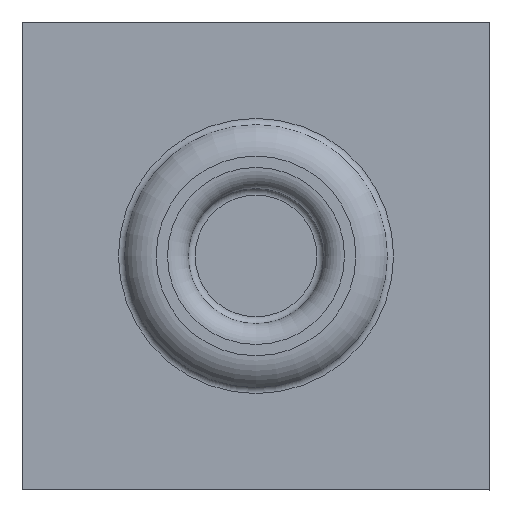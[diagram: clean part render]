
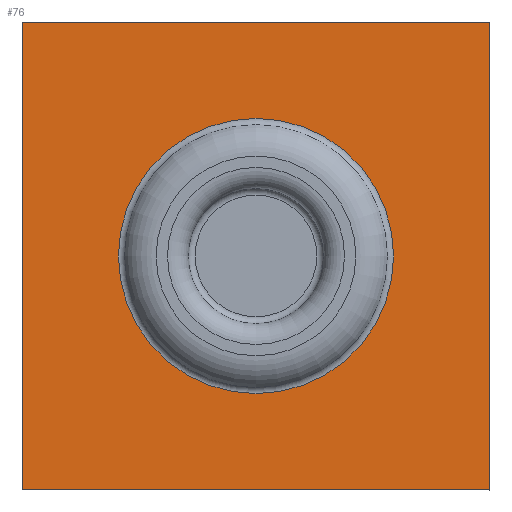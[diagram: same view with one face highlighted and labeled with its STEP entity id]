
A CAD part, top view. The second image highlights one B-rep face of the part: STEP entity #76.
In plain terms, the highlighted planar face has unit normal (0, 0, 1).
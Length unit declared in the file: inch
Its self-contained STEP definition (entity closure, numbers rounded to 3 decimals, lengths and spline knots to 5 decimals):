
#76=ADVANCED_FACE('',(#96,#97),#98,.F.);
#96=FACE_BOUND('',#144,.T.);
#97=FACE_OUTER_BOUND('',#145,.T.);
#98=PLANE('',#146);
#144=EDGE_LOOP('',(#197));
#145=EDGE_LOOP('',(#198,#199,#200,#201));
#146=AXIS2_PLACEMENT_3D('',#202,#203,#204);
#197=ORIENTED_EDGE('',*,*,#296,.F.);
#198=ORIENTED_EDGE('',*,*,#294,.T.);
#199=ORIENTED_EDGE('',*,*,#297,.T.);
#200=ORIENTED_EDGE('',*,*,#298,.T.);
#201=ORIENTED_EDGE('',*,*,#299,.T.);
#202=CARTESIAN_POINT('',(0.332,3.17,-0.06));
#203=DIRECTION('',(0.,0.,-1.0));
#204=DIRECTION('',(-1.0,0.,0.));
#294=EDGE_CURVE('',#321,#319,#322,.T.);
#296=EDGE_CURVE('',#324,#324,#325,.F.);
#297=EDGE_CURVE('',#319,#326,#327,.T.);
#298=EDGE_CURVE('',#326,#328,#329,.T.);
#299=EDGE_CURVE('',#328,#321,#330,.T.);
#319=VERTEX_POINT('',#364);
#321=VERTEX_POINT('',#367);
#322=LINE('',#368,#369);
#324=VERTEX_POINT('',#372);
#325=CIRCLE('',#373,0.588);
#326=VERTEX_POINT('',#374);
#327=LINE('',#375,#376);
#328=VERTEX_POINT('',#377);
#329=LINE('',#378,#379);
#330=LINE('',#380,#381);
#364=CARTESIAN_POINT('',(6.462,-4.88,-0.06));
#367=CARTESIAN_POINT('',(6.462,-6.88,-0.06));
#368=CARTESIAN_POINT('',(6.462,6910.32275,-0.06));
#369=VECTOR('',#418,1.0);
#372=CARTESIAN_POINT('',(5.462,-6.468,-0.06));
#373=AXIS2_PLACEMENT_3D('',#420,#421,#422);
#374=CARTESIAN_POINT('',(4.462,-4.88,-0.06));
#375=CARTESIAN_POINT('',(35509.44669,-4.88,-0.06));
#376=VECTOR('',#423,1.0);
#377=CARTESIAN_POINT('',(4.462,-6.88,-0.06));
#378=CARTESIAN_POINT('',(4.462,25532.23845,-0.06));
#379=VECTOR('',#424,1.0);
#380=CARTESIAN_POINT('',(12760.9946,-6.88,-0.06));
#381=VECTOR('',#425,1.0);
#418=DIRECTION('',(0.0,1.0,0.));
#420=CARTESIAN_POINT('',(5.462,-5.88,-0.06));
#421=DIRECTION('',(0.,0.,-1.0));
#422=DIRECTION('',(0.,-1.0,0.));
#423=DIRECTION('',(-1.0,0.0,0.));
#424=DIRECTION('',(0.0,-1.0,0.));
#425=DIRECTION('',(1.0,0.0,0.));
